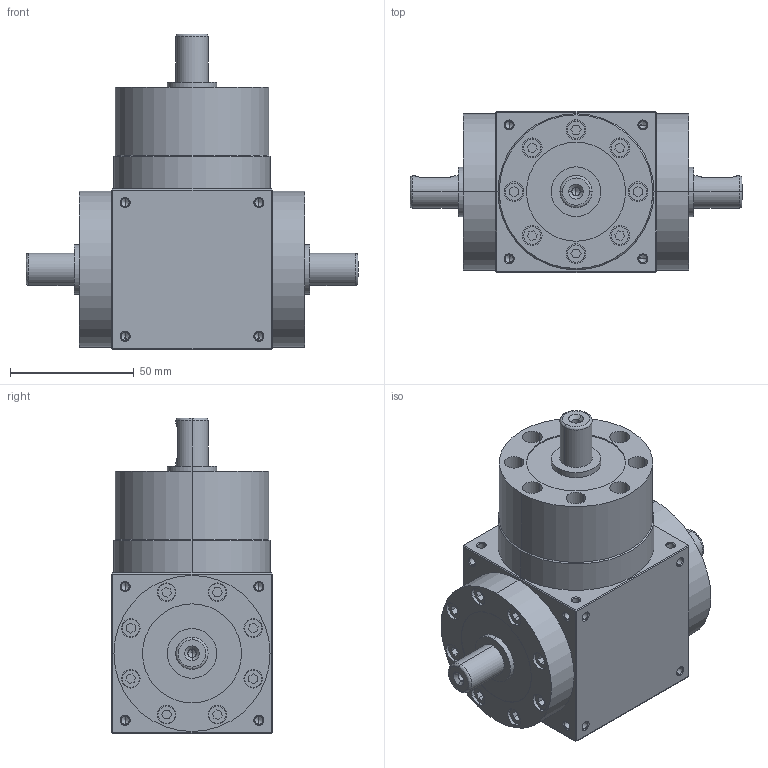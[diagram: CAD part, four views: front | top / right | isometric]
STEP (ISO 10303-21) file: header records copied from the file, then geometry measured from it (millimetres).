
FILE_DESCRIPTION (( 'STEP AP203' ), '1' );
FILE_NAME ('AT065-FL-L1-1-S2-P2.STEP', '2026-04-20T06:34:36', ( 'Windows User' ), ( 'P R C' ), 'SwSTEP 2.0', 'SolidWorks 2016', '' );
FILE_SCHEMA (( 'CONFIG_CONTROL_DESIGN' ));
Length unit declared in the file: millimetre
Products named in the file (3): AT065-FL-L1-1-S2-P2; AT65FL-转角箱体-批量-双轴输出; AT65L-输入端-批量
Assembly tree (2 placements, depth 2):
  AT065-FL-L1-1-S2-P2
    AT65FL-转角箱体-批量-双轴输出
    AT65L-输入端-批量
Bounding box: 134 x 65 x 127.5 mm (x, y, z)
Volume: 370081.2 mm3; surface area: 80473.8 mm2
Topology: 2 solids, 14 shells, 1356 faces, 3406 edges, 2139 vertices
Faces by surface type: plane 707, cylinder 297, cone 216, bspline 136
Entity records: 45385 total; most frequent: CARTESIAN_POINT 14017, ORIENTED_EDGE 6632, DIRECTION 5934, EDGE_CURVE 3316, VECTOR 2226, LINE 2226, VERTEX_POINT 2139, AXIS2_PLACEMENT_3D 1854
